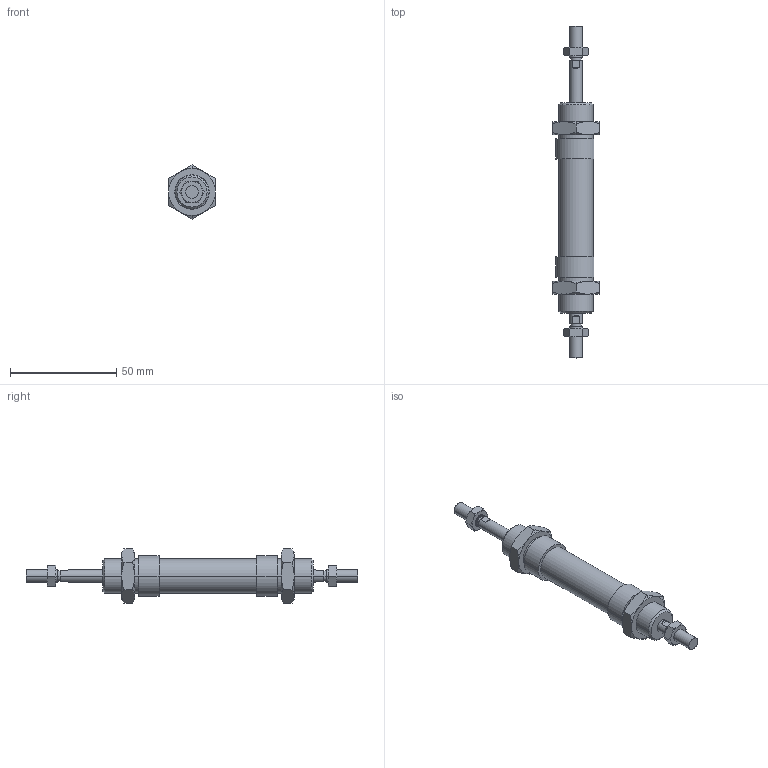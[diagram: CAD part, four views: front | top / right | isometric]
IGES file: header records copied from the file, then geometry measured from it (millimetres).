
Global section: file name: No Iges File Name specified; native system: AutoDesk Inventor R6.0; preprocessor: AutoDesk Inventor Iges Exporter R6.0; author: No Author specified; organization: No Organization specified; date: 20030403.072012; units: millimetre
Bounding box: 22 x 156 x 25.4 mm (x, y, z)
Volume: 26170.8 mm3; surface area: 13699.9 mm2
Topology: 6 solids, 6 shells, 180 faces, 388 edges, 228 vertices
Faces by surface type: cone 68, plane 56, bspline 30, cylinder 20, revolution 6
